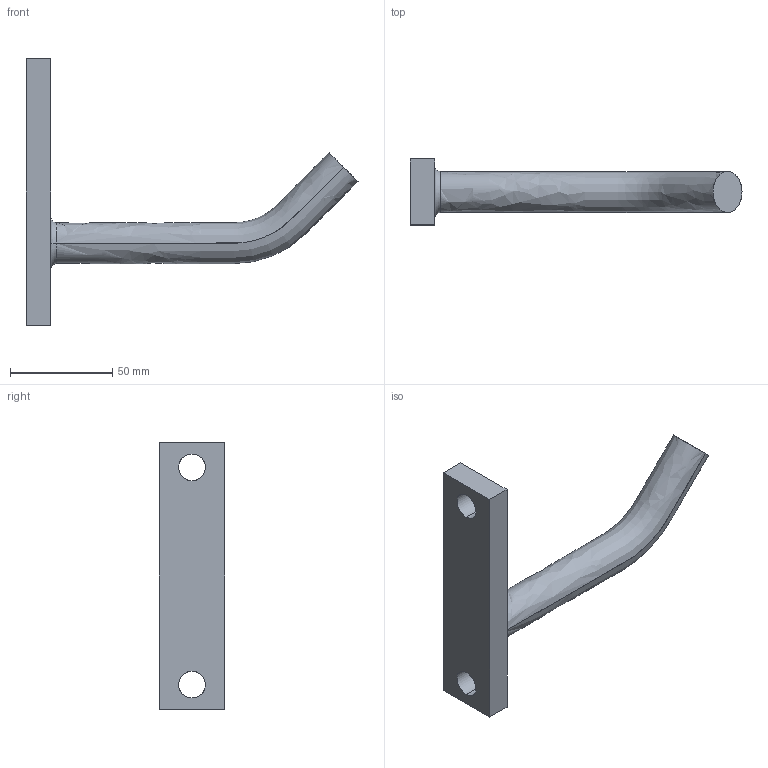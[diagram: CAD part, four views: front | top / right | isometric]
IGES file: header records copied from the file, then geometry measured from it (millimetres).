
Global section: file name: E:\UnigraphicsGraphicData\MISUMI_PRESS-PARTS\IGES\3d_dvj150_01854_r00.igs; native system: NX V5.0; preprocessor: UGS NX IGES V5.0; author: MISUMI; date: 20110105.160603; units: millimetre
Bounding box: 162 x 32 x 130 mm (x, y, z)
Surface area: 22414.8 mm2 (no closed solid volume)
Topology: 0 solids, 0 shells, 15 faces, 109 edges, 109 vertices
Faces by surface type: bspline 15
